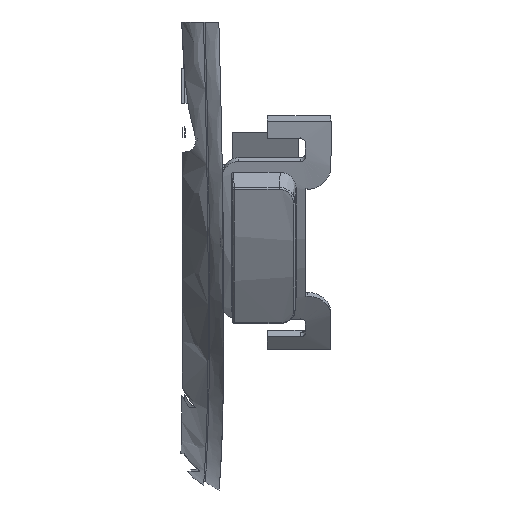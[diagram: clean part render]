
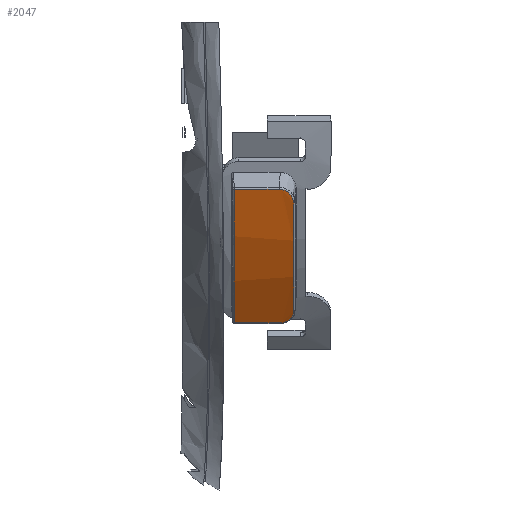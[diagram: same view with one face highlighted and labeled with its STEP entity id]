
A CAD part, left-side view. The second image highlights one B-rep face of the part: STEP entity #2047.
In plain terms, the highlighted cylindrical face has radius 30.9 mm (diameter 61.8 mm), a partial arc.
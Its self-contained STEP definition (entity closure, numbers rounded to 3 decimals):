
#22=CARTESIAN_POINT('',(0.,-3.453,-73.1));
#23=DIRECTION('',(0.,-1.,0.));
#24=DIRECTION('',(-0.93,0.,-0.367));
#25=AXIS2_PLACEMENT_3D('',#22,#23,#24);
#48=CARTESIAN_POINT('',(-25.031,-3.453,-91.218));
#49=CARTESIAN_POINT('',(-25.007,-3.453,-91.25));
#50=CARTESIAN_POINT('',(-24.96,-3.448,-91.315));
#51=CARTESIAN_POINT('',(-24.891,-3.425,-91.41));
#52=CARTESIAN_POINT('',(-24.823,-3.387,-91.501));
#53=CARTESIAN_POINT('',(-24.759,-3.334,-91.587));
#54=CARTESIAN_POINT('',(-24.7,-3.269,-91.667));
#55=CARTESIAN_POINT('',(-24.646,-3.191,-91.738));
#56=CARTESIAN_POINT('',(-24.598,-3.102,-91.801));
#57=CARTESIAN_POINT('',(-24.558,-3.004,-91.853));
#58=CARTESIAN_POINT('',(-24.527,-2.899,-91.894));
#59=CARTESIAN_POINT('',(-24.504,-2.788,-91.924));
#60=CARTESIAN_POINT('',(-24.49,-2.673,-91.943));
#61=CARTESIAN_POINT('',(-24.487,-2.596,-91.946));
#62=CARTESIAN_POINT('',(-24.487,-2.558,-91.946));
#149=CARTESIAN_POINT('',(0.,0.254,
-73.1));
#150=DIRECTION('',(0.,1.,0.));
#151=DIRECTION('',(-0.792,0.,-0.61));
#152=AXIS2_PLACEMENT_3D('',#149,#150,#151);
#197=DIRECTION('',(0.,-1.,0.));
#198=VECTOR('',#197,2.813);
#199=CARTESIAN_POINT('',(-29.068,0.254,
-83.58));
#200=LINE('',#199,#198);
#222=CARTESIAN_POINT('',(-29.068,-2.559,
-83.58));
#223=CARTESIAN_POINT('',(-29.068,-2.598,
-83.58));
#224=CARTESIAN_POINT('',(-29.067,-2.674,
-83.584));
#225=CARTESIAN_POINT('',(-29.059,-2.788,
-83.606));
#226=CARTESIAN_POINT('',(-29.046,-2.898,
-83.641));
#227=CARTESIAN_POINT('',(-29.028,-3.004,
-83.69));
#228=CARTESIAN_POINT('',(-29.006,-3.101,
-83.752));
#229=CARTESIAN_POINT('',(-28.978,-3.19,-83.826));
#230=CARTESIAN_POINT('',(-28.947,-3.268,
-83.91));
#231=CARTESIAN_POINT('',(-28.912,-3.334,
-84.004));
#232=CARTESIAN_POINT('',(-28.874,-3.387,
-84.105));
#233=CARTESIAN_POINT('',(-28.833,-3.425,
-84.212));
#234=CARTESIAN_POINT('',(-28.79,-3.448,
-84.323));
#235=CARTESIAN_POINT('',(-28.76,-3.453,
-84.398));
#236=CARTESIAN_POINT('',(-28.745,-3.453,
-84.436));
#273=DIRECTION('',(0.,1.,0.));
#274=VECTOR('',#273,2.811);
#275=CARTESIAN_POINT('',(-24.487,-2.558,
-91.946));
#276=LINE('',#275,#274);
#1315=CARTESIAN_POINT('',(-24.487,0.254,
-91.946));
#1316=CARTESIAN_POINT('',(-29.068,0.254,
-83.58));
#1317=VERTEX_POINT('',#1315);
#1318=VERTEX_POINT('',#1316);
#1319=CARTESIAN_POINT('',(-24.487,-2.558,
-91.946));
#1320=VERTEX_POINT('',#1319);
#1326=VERTEX_POINT('',#48);
#1328=CARTESIAN_POINT('',(-28.745,-3.453,
-84.436));
#1329=VERTEX_POINT('',#1328);
#1331=VERTEX_POINT('',#222);
#2033=CARTESIAN_POINT('',(0.,-3.7,
-73.1));
#2034=DIRECTION('',(0.,-1.,0.));
#2035=DIRECTION('',(-1.,0.,0.));
#2036=AXIS2_PLACEMENT_3D('',#2033,#2034,#2035);
#2037=CYLINDRICAL_SURFACE('',#2036,30.9);
#2038=ORIENTED_EDGE('',*,*,#1834,.T.);
#2039=ORIENTED_EDGE('',*,*,#1913,.T.);
#2040=ORIENTED_EDGE('',*,*,#1991,.T.);
#2041=ORIENTED_EDGE('',*,*,#1569,.T.);
#2042=ORIENTED_EDGE('',*,*,#1649,.T.);
#2044=ORIENTED_EDGE('',*,*,#2043,.T.);
#2045=EDGE_LOOP('',(#2038,#2039,#2040,#2041,#2042,#2044));
#2046=FACE_OUTER_BOUND('',#2045,.F.);
#2047=ADVANCED_FACE('',(#2046),#2037,.T.);
#26=CIRCLE('',#25,30.9);
#63=B_SPLINE_CURVE_WITH_KNOTS('',3,(#48,#49,#50,#51,#52,#53,#54,#55,#56,#57,#58,
#59,#60,#61,#62),.UNSPECIFIED.,.F.,.F.,(4,1,1,1,1,1,1,1,1,1,1,1,4),(0.,
0.083,0.167,0.25,0.333,0.417,
0.5,0.583,0.667,0.75,0.833,
0.917,1.),.UNSPECIFIED.);
#153=CIRCLE('',#152,30.9);
#237=B_SPLINE_CURVE_WITH_KNOTS('',3,(#222,#223,#224,#225,#226,#227,#228,#229,
#230,#231,#232,#233,#234,#235,#236),.UNSPECIFIED.,.F.,.F.,(4,1,1,1,1,1,1,1,1,1,
1,1,4),(0.,0.083,0.167,0.25,0.333,
0.417,0.5,0.583,0.667,0.75,
0.833,0.917,1.),.UNSPECIFIED.);
#1569=EDGE_CURVE('',#1329,#1326,#26,.T.);
#1649=EDGE_CURVE('',#1326,#1320,#63,.T.);
#1834=EDGE_CURVE('',#1317,#1318,#153,.T.);
#1913=EDGE_CURVE('',#1318,#1331,#200,.T.);
#1991=EDGE_CURVE('',#1331,#1329,#237,.T.);
#2043=EDGE_CURVE('',#1320,#1317,#276,.T.);
